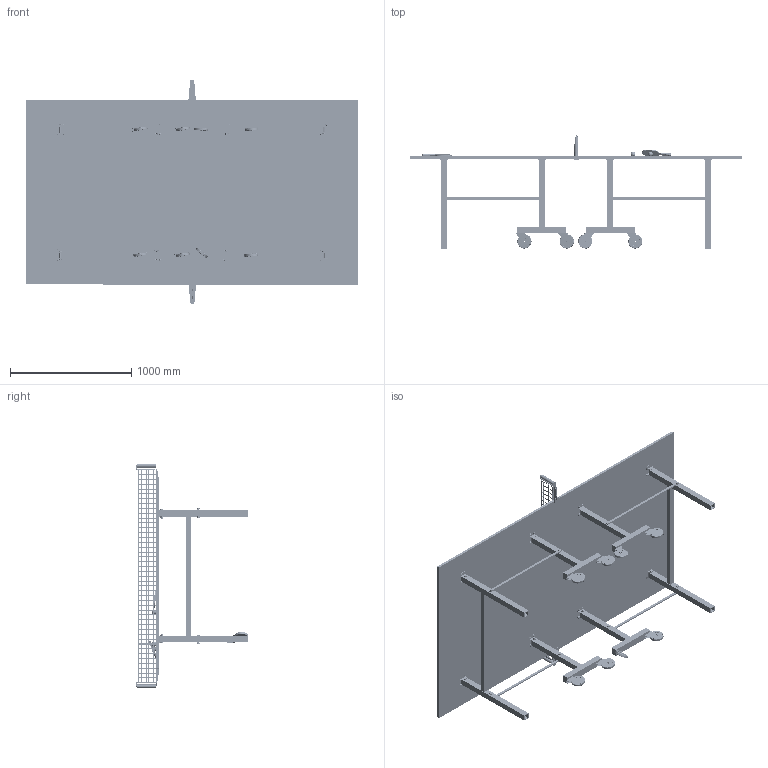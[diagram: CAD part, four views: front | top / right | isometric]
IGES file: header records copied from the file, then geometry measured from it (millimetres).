
Start section: SolidWorks IGES file using analytic representation for surfaces
Global section: file name: D:\nonamed\3d\drawings\dr - ping pong\assembly ready to play.IGS; native system: SolidWorks 2011; preprocessor: SolidWorks 2011; author: Cemal; date: 110828.063049; units: millimetre
Bounding box: 2743.07 x 932.13 x 1857.24 mm (x, y, z)
Surface area: 13134538.6 mm2 (no closed solid volume)
Topology: 0 solids, 0 shells, 3576 faces, 43122 edges, 43118 vertices
Faces by surface type: bspline 2880, revolution 696
